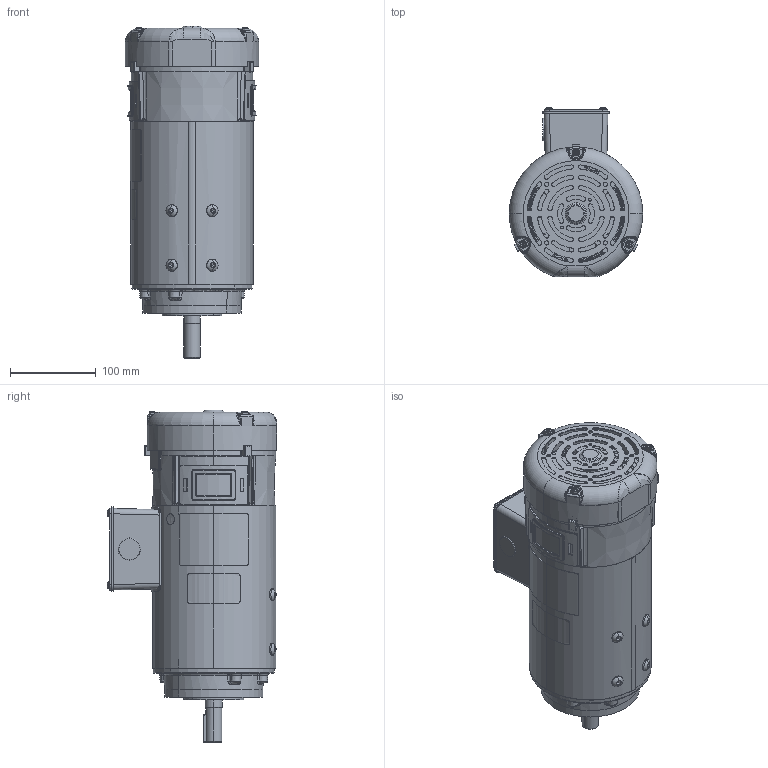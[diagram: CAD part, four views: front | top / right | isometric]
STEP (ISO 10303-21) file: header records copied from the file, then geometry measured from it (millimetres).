
FILE_DESCRIPTION (( 'STEP AP203' ), '1' );
FILE_NAME ('031898-108370_Rev04.STEP', '2018-02-21T06:30:23', ( '' ), ( '' ), 'SwSTEP 2.0', 'SolidWorks 2015', '' );
FILE_SCHEMA (( 'CONFIG_CONTROL_DESIGN' ));
Products named in the file (1): 031898-108370_Rev04
Bounding box: 155.7 x 198.38 x 387.43 mm (x, y, z)
Volume: 1400422.2 mm3; surface area: 592292.2 mm2
Topology: 37 solids, 37 shells, 3584 faces, 8818 edges, 5292 vertices
Faces by surface type: cylinder 1005, plane 931, bspline 824, cone 371, torus 338, sphere 115
Entity records: 140597 total; most frequent: CARTESIAN_POINT 61734, ORIENTED_EDGE 17358, DIRECTION 15366, EDGE_CURVE 8679, AXIS2_PLACEMENT_3D 6172, VERTEX_POINT 5286, EDGE_LOOP 3857, FACE_OUTER_BOUND 3584
